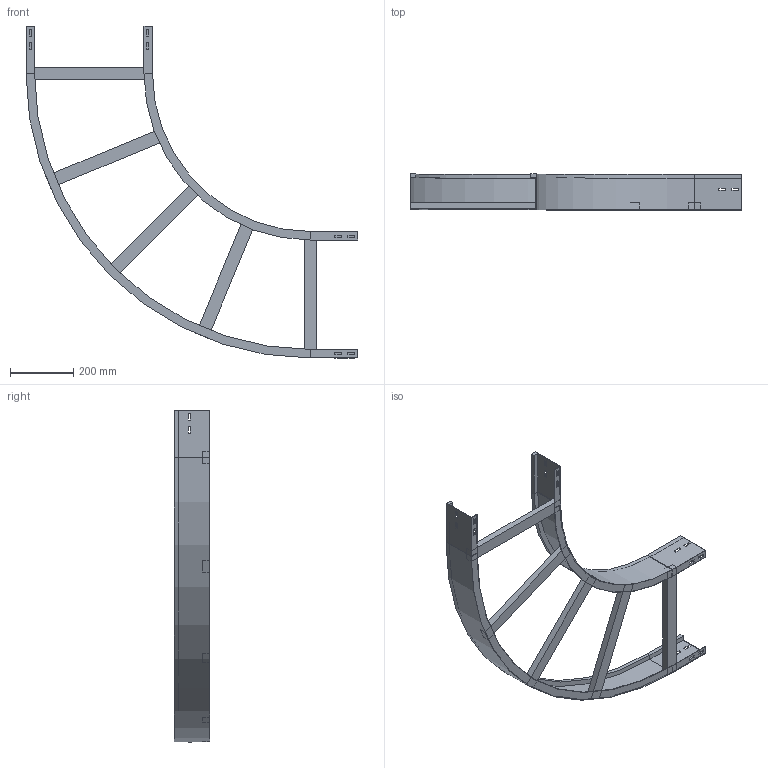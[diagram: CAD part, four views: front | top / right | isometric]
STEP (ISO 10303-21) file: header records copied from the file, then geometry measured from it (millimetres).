
FILE_DESCRIPTION (( 'STEP AP214' ), '1' );
FILE_NAME ('10B5J400.step', '2025-02-21T15:24:05', ( '' ), ( '' ), 'SwSTEP 2.0', 'SolidWorks 2023', '' );
FILE_SCHEMA (( 'AUTOMOTIVE_DESIGN' ));
Length unit declared in the file: millimetre
Products named in the file (4): A2_LONGH.ESTERNO 90°_H112.5_R500+400; A2_LONGH.INTERNO 90°_H112.5_R500; 10B5J400; TRAVERSINO_400
Assembly tree (7 placements, depth 2):
  10B5J400
    A2_LONGH.INTERNO 90°_H112.5_R500
    A2_LONGH.ESTERNO 90°_H112.5_R500+400
    TRAVERSINO_400  x5
Bounding box: 1050 x 112.5 x 1050 mm (x, y, z)
Volume: 2906058.6 mm3; surface area: 1117000.7 mm2
Topology: 7 solids, 7 shells, 146 faces, 364 edges, 232 vertices
Faces by surface type: plane 138, cylinder 8
Entity records: 3837 total; most frequent: CARTESIAN_POINT 648, ORIENTED_EDGE 632, DIRECTION 596, EDGE_CURVE 316, VECTOR 300, LINE 300, VERTEX_POINT 200, EDGE_LOOP 154
